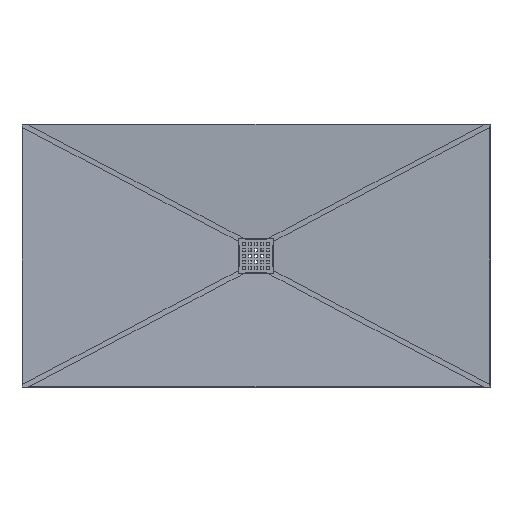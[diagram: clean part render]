
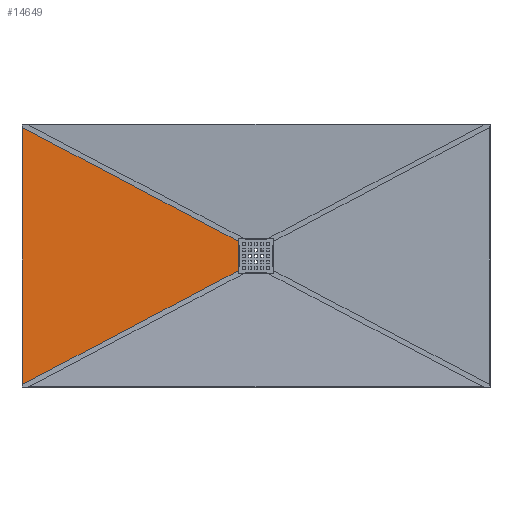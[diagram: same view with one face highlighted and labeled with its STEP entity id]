
A CAD part, top view. The second image highlights one B-rep face of the part: STEP entity #14649.
In plain terms, the highlighted free-form (B-spline) face has degree [1, 1] with [2, 2] control points.
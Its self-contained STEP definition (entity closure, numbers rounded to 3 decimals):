
#4 = ORIENTED_EDGE ( 'NONE', *, *, #16077, .F. ) ;
#566 = B_SPLINE_CURVE_WITH_KNOTS ( 'NONE', 3,
 ( #11837, #26747, #36066, #29685, #32559 ),
 .UNSPECIFIED., .F., .F.,
 ( 4, 1, 4 ),
 ( 0., 277.211, 878.19 ),
 .UNSPECIFIED. ) ;
#1380 = B_SPLINE_CURVE_WITH_KNOTS ( 'NONE', 3,
 ( #24854, #6867, #33603, #18862, #36739, #30696, #15957, #31077, #27957, #1440, #34563, #20023, #28540, #19249, #10345, #22735, #28151, #37300, #7631, #16729, #37698, #8014, #19829 ),
 .UNSPECIFIED., .F., .F.,
 ( 4, 1, 1, 1, 1, 1, 1, 1, 1, 1, 1, 1, 1, 1, 1, 1, 1, 1, 1, 1, 4 ),
 ( 2.323, 95.612, 190.37, 259.519, 340.191, 397.815, 461.444, 500.013, 542.088, 577.151, 622.732, 654.288, 693.667, 719.021, 744.375, 759.87, 776.772, 792.267, 807.055, 827.743, 835.62 ),
 .UNSPECIFIED. ) ;
#1440 = CARTESIAN_POINT ( 'NONE',  ( -322.641, -188.596, -12.902 ) ) ;
#1443 = CARTESIAN_POINT ( 'NONE',  ( -60.973, -29.247, -19.974 ) ) ;
#1629 = CARTESIAN_POINT ( 'NONE',  ( -60.973, 50.69, -19.974 ) ) ;
#2344 = CARTESIAN_POINT ( 'NONE',  ( -505.928, 285.193, -7.948 ) ) ;
#2367 = CARTESIAN_POINT ( 'NONE',  ( -60.973, 50.69, -19.974 ) ) ;
#2728 = CARTESIAN_POINT ( 'NONE',  ( -286.464, 169.53, -13.879 ) ) ;
#2922 = CARTESIAN_POINT ( 'NONE',  ( -446.4, 253.82, -9.557 ) ) ;
#3865 = CARTESIAN_POINT ( 'NONE',  ( -797.947, -439.095, -0.055 ) ) ;
#4292 = EDGE_CURVE ( 'NONE', #11209, #9245, #566, .T. ) ;
#4358 = ORIENTED_EDGE ( 'NONE', *, *, #19368, .F. ) ;
#6138 = CARTESIAN_POINT ( 'NONE',  ( -797.946, -439.095, -0.056 ) ) ;
#6867 = CARTESIAN_POINT ( 'NONE',  ( -770.444, -424.601, -0.799 ) ) ;
#7631 = CARTESIAN_POINT ( 'NONE',  ( -99.523, -71.007, -18.932 ) ) ;
#8014 = CARTESIAN_POINT ( 'NONE',  ( -63.295, -51.914, -19.911 ) ) ;
#8149 = CARTESIAN_POINT ( 'NONE',  ( -99.523, 71.007, -18.932 ) ) ;
#8197 = VERTEX_POINT ( 'NONE', #8336 ) ;
#8336 = CARTESIAN_POINT ( 'NONE',  ( -60.973, -50.69, -19.974 ) ) ;
#8745 = CARTESIAN_POINT ( 'NONE',  ( -127.551, 85.779, -18.174 ) ) ;
#8898 = B_SPLINE_SURFACE_WITH_KNOTS ( 'NONE', 1, 1, ( 
 ( #3865, #10052 ),
 ( #10432, #13541 ) ),
 .UNSPECIFIED., .F., .F., .F.,
 ( 2, 2 ),
 ( 2, 2 ),
 ( 0., 880.307 ),
 ( 0., 1. ),
 .UNSPECIFIED. ) ;
#9245 = VERTEX_POINT ( 'NONE', #33231 ) ;
#10052 = CARTESIAN_POINT ( 'NONE',  ( -60.972, -59.188, -19.974 ) ) ;
#10345 = CARTESIAN_POINT ( 'NONE',  ( -164.093, -105.037, -17.187 ) ) ;
#10432 = CARTESIAN_POINT ( 'NONE',  ( -797.947, 439.095, -0.055 ) ) ;
#11209 = VERTEX_POINT ( 'NONE', #6138 ) ;
#11439 = CARTESIAN_POINT ( 'NONE',  ( -715.007, 395.384, -2.297 ) ) ;
#11837 = CARTESIAN_POINT ( 'NONE',  ( -797.946, -439.095, -0.056 ) ) ;
#12202 = EDGE_LOOP ( 'NONE', ( #4358, #26239, #24463, #4 ) ) ;
#13541 = CARTESIAN_POINT ( 'NONE',  ( -60.972, 59.188, -19.974 ) ) ;
#14159 = CARTESIAN_POINT ( 'NONE',  ( -60.973, 50.69, -19.974 ) ) ;
#14649 = ADVANCED_FACE ( 'NONE', ( #30416 ), #8898, .F. ) ;
#14737 = CARTESIAN_POINT ( 'NONE',  ( -797.946, 439.095, -0.056 ) ) ;
#15957 = CARTESIAN_POINT ( 'NONE',  ( -446.4, -253.82, -9.557 ) ) ;
#16077 = EDGE_CURVE ( 'NONE', #36989, #8197, #16375, .T. ) ;
#16345 = CARTESIAN_POINT ( 'NONE',  ( -60.973, 4.547, -19.974 ) ) ;
#16375 = B_SPLINE_CURVE_WITH_KNOTS ( 'NONE', 3,
 ( #1629, #22738, #16345, #1443, #21969 ),
 .UNSPECIFIED., .F., .F.,
 ( 4, 1, 4 ),
 ( 0., 37.05, 101.38 ),
 .UNSPECIFIED. ) ;
#16729 = CARTESIAN_POINT ( 'NONE',  ( -84.496, -63.088, -19.338 ) ) ;
#17068 = CARTESIAN_POINT ( 'NONE',  ( -190.651, 119.034, -16.469 ) ) ;
#17276 = CARTESIAN_POINT ( 'NONE',  ( -770.444, 424.601, -0.799 ) ) ;
#18862 = CARTESIAN_POINT ( 'NONE',  ( -639.185, -355.424, -4.346 ) ) ;
#18908 = EDGE_CURVE ( 'NONE', #11209, #8197, #1380, .T. ) ;
#19249 = CARTESIAN_POINT ( 'NONE',  ( -190.651, -119.034, -16.469 ) ) ;
#19368 = EDGE_CURVE ( 'NONE', #9245, #36989, #28685, .T. ) ;
#19829 = CARTESIAN_POINT ( 'NONE',  ( -60.973, -50.69, -19.974 ) ) ;
#20023 = CARTESIAN_POINT ( 'NONE',  ( -253.387, -152.097, -14.773 ) ) ;
#20368 = CARTESIAN_POINT ( 'NONE',  ( -399.284, 228.989, -10.83 ) ) ;
#21969 = CARTESIAN_POINT ( 'NONE',  ( -60.973, -50.69, -19.974 ) ) ;
#22735 = CARTESIAN_POINT ( 'NONE',  ( -144.577, -94.751, -17.714 ) ) ;
#22738 = CARTESIAN_POINT ( 'NONE',  ( -60.973, 38.34, -19.974 ) ) ;
#23056 = CARTESIAN_POINT ( 'NONE',  ( -219.038, 133.994, -15.702 ) ) ;
#23250 = CARTESIAN_POINT ( 'NONE',  ( -639.185, 355.424, -4.346 ) ) ;
#24463 = ORIENTED_EDGE ( 'NONE', *, *, #18908, .T. ) ;
#24854 = CARTESIAN_POINT ( 'NONE',  ( -797.946, -439.095, -0.056 ) ) ;
#26239 = ORIENTED_EDGE ( 'NONE', *, *, #4292, .F. ) ;
#26544 = CARTESIAN_POINT ( 'NONE',  ( -164.093, 105.037, -17.187 ) ) ;
#26747 = CARTESIAN_POINT ( 'NONE',  ( -797.946, -346.691, -0.056 ) ) ;
#27957 = CARTESIAN_POINT ( 'NONE',  ( -356.752, -206.573, -11.98 ) ) ;
#28151 = CARTESIAN_POINT ( 'NONE',  ( -127.551, -85.779, -18.174 ) ) ;
#28540 = CARTESIAN_POINT ( 'NONE',  ( -219.038, -133.994, -15.702 ) ) ;
#28685 = B_SPLINE_CURVE_WITH_KNOTS ( 'NONE', 3,
 ( #14737, #17276, #11439, #23250, #38235, #2344, #2922, #20368, #29283, #38030, #2728, #32367, #23056, #17068, #26544, #34703, #8745, #34902, #8149, #35298, #29482, #28887, #14159 ),
 .UNSPECIFIED., .F., .F.,
 ( 4, 1, 1, 1, 1, 1, 1, 1, 1, 1, 1, 1, 1, 1, 1, 1, 1, 1, 1, 1, 4 ),
 ( 2.323, 95.612, 190.37, 259.519, 340.191, 397.815, 461.444, 500.013, 542.088, 577.151, 622.732, 654.288, 693.667, 719.021, 744.375, 759.87, 776.772, 792.267, 807.055, 827.743, 835.62 ),
 .UNSPECIFIED. ) ;
#28887 = CARTESIAN_POINT ( 'NONE',  ( -63.295, 51.914, -19.911 ) ) ;
#29283 = CARTESIAN_POINT ( 'NONE',  ( -356.752, 206.573, -11.98 ) ) ;
#29482 = CARTESIAN_POINT ( 'NONE',  ( -71.716, 56.352, -19.683 ) ) ;
#29685 = CARTESIAN_POINT ( 'NONE',  ( -797.946, 238.769, -0.056 ) ) ;
#30416 = FACE_OUTER_BOUND ( 'NONE', #12202, .T. ) ;
#30696 = CARTESIAN_POINT ( 'NONE',  ( -505.928, -285.193, -7.948 ) ) ;
#31077 = CARTESIAN_POINT ( 'NONE',  ( -399.284, -228.989, -10.83 ) ) ;
#32367 = CARTESIAN_POINT ( 'NONE',  ( -253.387, 152.097, -14.773 ) ) ;
#32559 = CARTESIAN_POINT ( 'NONE',  ( -797.946, 439.095, -0.056 ) ) ;
#33231 = CARTESIAN_POINT ( 'NONE',  ( -797.946, 439.095, -0.056 ) ) ;
#33603 = CARTESIAN_POINT ( 'NONE',  ( -715.007, -395.384, -2.297 ) ) ;
#34563 = CARTESIAN_POINT ( 'NONE',  ( -286.464, -169.53, -13.879 ) ) ;
#34703 = CARTESIAN_POINT ( 'NONE',  ( -144.577, 94.751, -17.714 ) ) ;
#34902 = CARTESIAN_POINT ( 'NONE',  ( -113.433, 78.338, -18.556 ) ) ;
#35298 = CARTESIAN_POINT ( 'NONE',  ( -84.496, 63.088, -19.338 ) ) ;
#36066 = CARTESIAN_POINT ( 'NONE',  ( -797.946, -53.961, -0.056 ) ) ;
#36739 = CARTESIAN_POINT ( 'NONE',  ( -567.083, -317.424, -6.295 ) ) ;
#36989 = VERTEX_POINT ( 'NONE', #2367 ) ;
#37300 = CARTESIAN_POINT ( 'NONE',  ( -113.433, -78.338, -18.556 ) ) ;
#37698 = CARTESIAN_POINT ( 'NONE',  ( -71.716, -56.352, -19.683 ) ) ;
#38030 = CARTESIAN_POINT ( 'NONE',  ( -322.641, 188.596, -12.902 ) ) ;
#38235 = CARTESIAN_POINT ( 'NONE',  ( -567.083, 317.424, -6.295 ) ) ;
